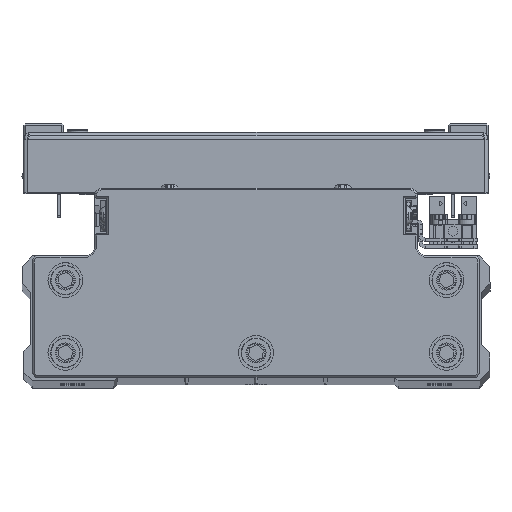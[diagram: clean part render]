
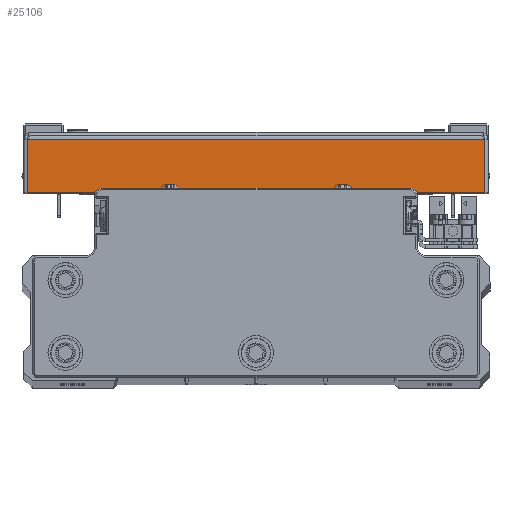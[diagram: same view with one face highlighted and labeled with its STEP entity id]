
A CAD part, top view. The second image highlights one B-rep face of the part: STEP entity #25106.
In plain terms, the highlighted planar face has unit normal (0, 0, 1) as drawn and (1, 0, 0) by its records, which use the part's own axes.
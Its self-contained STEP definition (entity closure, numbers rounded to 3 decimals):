
#199 = PLANE ( 'NONE',  #29154 ) ;
#748 = CARTESIAN_POINT ( 'NONE',  ( 75., 0., -65.929 ) ) ;
#3387 = ORIENTED_EDGE ( 'NONE', *, *, #41041, .T. ) ;
#4119 = EDGE_CURVE ( 'NONE', #20102, #15340, #24364, .T. ) ;
#4458 = EDGE_CURVE ( 'NONE', #12593, #20102, #13092, .T. ) ;
#5466 = VECTOR ( 'NONE', #40742, 1000. ) ;
#6892 = CARTESIAN_POINT ( 'NONE',  ( 75., 16.5, 65.929 ) ) ;
#7303 = DIRECTION ( 'NONE',  ( 0., 1., 0. ) ) ;
#8102 = VECTOR ( 'NONE', #14438, 1000. ) ;
#12593 = VERTEX_POINT ( 'NONE', #39384 ) ;
#13092 = LINE ( 'NONE', #26784, #31410 ) ;
#13122 = EDGE_LOOP ( 'NONE', ( #23793, #3387, #28763, #37956 ) ) ;
#13359 = LINE ( 'NONE', #27056, #5466 ) ;
#13893 = CARTESIAN_POINT ( 'NONE',  ( 75., 0., 0. ) ) ;
#14438 = DIRECTION ( 'NONE',  ( 0., 1., 0. ) ) ;
#15340 = VERTEX_POINT ( 'NONE', #6892 ) ;
#17755 = CARTESIAN_POINT ( 'NONE',  ( 75., 16.5, -65.929 ) ) ;
#20102 = VERTEX_POINT ( 'NONE', #34364 ) ;
#21438 = VERTEX_POINT ( 'NONE', #17755 ) ;
#23793 = ORIENTED_EDGE ( 'NONE', *, *, #4458, .F. ) ;
#24364 = LINE ( 'NONE', #38052, #24939 ) ;
#24939 = VECTOR ( 'NONE', #7303, 1000. ) ;
#25106 = ADVANCED_FACE ( 'NONE', ( #30966 ), #199, .F. ) ;
#26784 = CARTESIAN_POINT ( 'NONE',  ( 75., 1., 67. ) ) ;
#27056 = CARTESIAN_POINT ( 'NONE',  ( 75., 16.5, 0. ) ) ;
#27587 = DIRECTION ( 'NONE',  ( -1., 0., 0. ) ) ;
#28763 = ORIENTED_EDGE ( 'NONE', *, *, #36167, .T. ) ;
#29154 = AXIS2_PLACEMENT_3D ( 'NONE', #13893, #27587, #41265 ) ;
#30966 = FACE_OUTER_BOUND ( 'NONE', #13122, .T. ) ;
#31410 = VECTOR ( 'NONE', #40462, 1000. ) ;
#31492 = LINE ( 'NONE', #748, #8102 ) ;
#34364 = CARTESIAN_POINT ( 'NONE',  ( 75., 1., 65.929 ) ) ;
#36167 = EDGE_CURVE ( 'NONE', #21438, #15340, #13359, .T. ) ;
#37956 = ORIENTED_EDGE ( 'NONE', *, *, #4119, .F. ) ;
#38052 = CARTESIAN_POINT ( 'NONE',  ( 75., 0., 65.929 ) ) ;
#39384 = CARTESIAN_POINT ( 'NONE',  ( 75., 1., -65.929 ) ) ;
#40462 = DIRECTION ( 'NONE',  ( 0., 0., 1. ) ) ;
#40742 = DIRECTION ( 'NONE',  ( 0., 0., 1. ) ) ;
#41041 = EDGE_CURVE ( 'NONE', #12593, #21438, #31492, .T. ) ;
#41265 = DIRECTION ( 'NONE',  ( 0., -1., 0. ) ) ;
